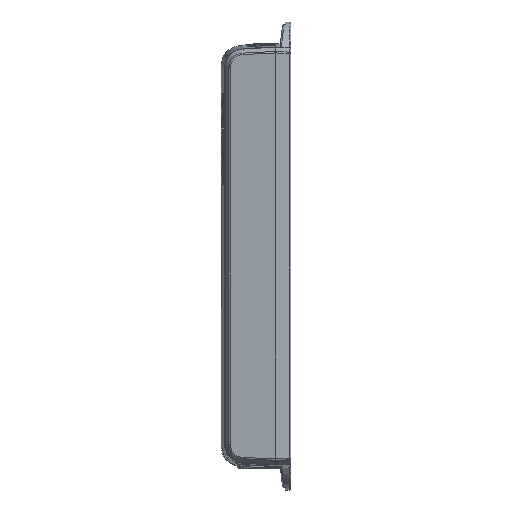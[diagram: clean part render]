
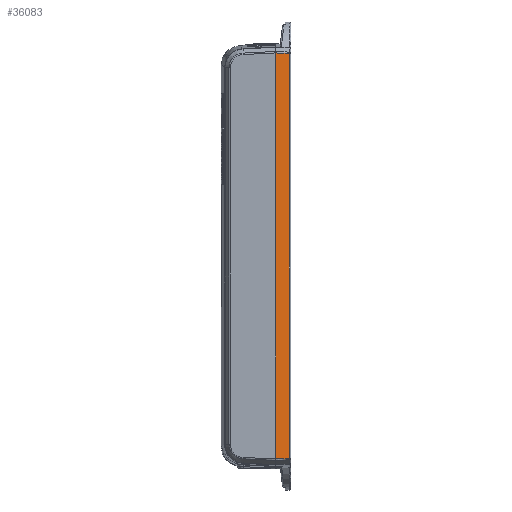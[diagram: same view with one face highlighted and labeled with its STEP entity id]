
A CAD part, left-side view. The second image highlights one B-rep face of the part: STEP entity #36083.
In plain terms, the highlighted planar face has unit normal (-0.999, -0.052, 0).
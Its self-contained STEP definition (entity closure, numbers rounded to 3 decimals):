
#1524 = LINE ( 'NONE', #4774, #1526 ) ;
#1526 = VECTOR ( 'NONE', #4749, 1000. ) ;
#1973 = FACE_OUTER_BOUND ( 'NONE', #13375, .T. ) ;
#4612 = CARTESIAN_POINT ( 'NONE',  ( -62.716, -0.347, 115.141 ) ) ;
#4623 = CARTESIAN_POINT ( 'NONE',  ( -62.807, 1.396, 115.224 ) ) ;
#4625 = CARTESIAN_POINT ( 'NONE',  ( -62.936, 3.846, 115.342 ) ) ;
#4626 = CARTESIAN_POINT ( 'NONE',  ( -62.748, 0.271, 115.17 ) ) ;
#4627 = CARTESIAN_POINT ( 'NONE',  ( -63.053, 6.088, 115.45 ) ) ;
#4631 = CARTESIAN_POINT ( 'NONE',  ( -63.117, 7.305, 115.509 ) ) ;
#4637 = CARTESIAN_POINT ( 'NONE',  ( -62.732, -0.038, 115.155 ) ) ;
#4642 = CARTESIAN_POINT ( 'NONE',  ( -63.085, 6.696, 115.479 ) ) ;
#4648 = CARTESIAN_POINT ( 'NONE',  ( -63.021, 5.48, 115.421 ) ) ;
#4652 = CARTESIAN_POINT ( 'NONE',  ( -62.85, 2.213, 115.264 ) ) ;
#4653 = CARTESIAN_POINT ( 'NONE',  ( -62.893, 3.03, 115.303 ) ) ;
#4669 = CARTESIAN_POINT ( 'NONE',  ( -62.765, 0.58, 115.185 ) ) ;
#4670 = CARTESIAN_POINT ( 'NONE',  ( -62.979, 4.663, 115.382 ) ) ;
#4749 = DIRECTION ( 'NONE',  ( 0., 0., 1. ) ) ;
#4774 = CARTESIAN_POINT ( 'NONE',  ( -62.716, -0.347, 118.5 ) ) ;
#4779 = CARTESIAN_POINT ( 'NONE',  ( -62.85, 2.213, -115.264 ) ) ;
#4780 = CARTESIAN_POINT ( 'NONE',  ( -63.053, 6.088, -115.45 ) ) ;
#4781 = CARTESIAN_POINT ( 'NONE',  ( -62.765, 0.58, -115.185 ) ) ;
#4783 = CARTESIAN_POINT ( 'NONE',  ( -62.807, 1.396, -115.224 ) ) ;
#4785 = CARTESIAN_POINT ( 'NONE',  ( -62.748, 0.271, -115.17 ) ) ;
#4786 = CARTESIAN_POINT ( 'NONE',  ( -62.732, -0.038, -115.155 ) ) ;
#4787 = CARTESIAN_POINT ( 'NONE',  ( -62.716, -0.347, -115.141 ) ) ;
#4789 = CARTESIAN_POINT ( 'NONE',  ( -62.979, 4.663, -115.382 ) ) ;
#4821 = CARTESIAN_POINT ( 'NONE',  ( -63.117, 7.305, -115.509 ) ) ;
#4825 = CARTESIAN_POINT ( 'NONE',  ( -63.085, 6.696, -115.479 ) ) ;
#4826 = CARTESIAN_POINT ( 'NONE',  ( -63.021, 5.48, -115.421 ) ) ;
#4827 = CARTESIAN_POINT ( 'NONE',  ( -62.936, 3.846, -115.342 ) ) ;
#4828 = CARTESIAN_POINT ( 'NONE',  ( -62.893, 3.03, -115.303 ) ) ;
#10551 = VERTEX_POINT ( 'NONE', #28914 ) ;
#10558 = VERTEX_POINT ( 'NONE', #28888 ) ;
#13013 = VERTEX_POINT ( 'NONE', #29370 ) ;
#13016 = VERTEX_POINT ( 'NONE', #29367 ) ;
#13375 = EDGE_LOOP ( 'NONE', ( #31592, #31653, #31652, #31657 ) ) ;
#19747 = AXIS2_PLACEMENT_3D ( 'NONE', #38134, #38164, #38169 ) ;
#22494 = DIRECTION ( 'NONE',  ( 0., 0., 1. ) ) ;
#22523 = CARTESIAN_POINT ( 'NONE',  ( -63.117, 7.305, 118.5 ) ) ;
#22970 = B_SPLINE_CURVE_WITH_KNOTS ( 'NONE', 3,
 ( #4821, #4825, #4780, #4826, #4789, #4827, #4828, #4779, #4783, #4781, #4785, #4786, #4787 ),
 .UNSPECIFIED., .F., .F.,
 ( 4, 3, 3, 3, 4 ),
 ( 0., 0.002, 0.004, 0.007, 0.008 ),
 .UNSPECIFIED. ) ;
#23019 = B_SPLINE_CURVE_WITH_KNOTS ( 'NONE', 3,
 ( #4612, #4637, #4626, #4669, #4623, #4652, #4653, #4625, #4670, #4648, #4627, #4642, #4631 ),
 .UNSPECIFIED., .F., .F.,
 ( 4, 3, 3, 3, 4 ),
 ( 0., 0.001, 0.003, 0.006, 0.008 ),
 .UNSPECIFIED. ) ;
#23414 = EDGE_CURVE ( 'NONE', #10558, #10551, #24835, .T. ) ;
#24835 = LINE ( 'NONE', #22523, #24867 ) ;
#24867 = VECTOR ( 'NONE', #22494, 1000. ) ;
#28109 = EDGE_CURVE ( 'NONE', #13013, #10551, #23019, .T. ) ;
#28133 = EDGE_CURVE ( 'NONE', #13016, #13013, #1524, .T. ) ;
#28147 = EDGE_CURVE ( 'NONE', #10558, #13016, #22970, .T. ) ;
#28888 = CARTESIAN_POINT ( 'NONE',  ( -63.117, 7.305, -115.509 ) ) ;
#28914 = CARTESIAN_POINT ( 'NONE',  ( -63.117, 7.305, 115.509 ) ) ;
#29367 = CARTESIAN_POINT ( 'NONE',  ( -62.716, -0.347, -115.141 ) ) ;
#29370 = CARTESIAN_POINT ( 'NONE',  ( -62.716, -0.347, 115.141 ) ) ;
#31592 = ORIENTED_EDGE ( 'NONE', *, *, #28133, .T. ) ;
#31652 = ORIENTED_EDGE ( 'NONE', *, *, #23414, .F. ) ;
#31653 = ORIENTED_EDGE ( 'NONE', *, *, #28109, .T. ) ;
#31657 = ORIENTED_EDGE ( 'NONE', *, *, #28147, .T. ) ;
#36083 = ADVANCED_FACE ( 'NONE', ( #1973 ), #38108, .T. ) ;
#38108 = PLANE ( 'NONE',  #19747 ) ;
#38134 = CARTESIAN_POINT ( 'NONE',  ( -63.117, 7.305, 118.5 ) ) ;
#38164 = DIRECTION ( 'NONE',  ( -0.999, -0.052, 0. ) ) ;
#38169 = DIRECTION ( 'NONE',  ( 0.052, -0.999, 0. ) ) ;
